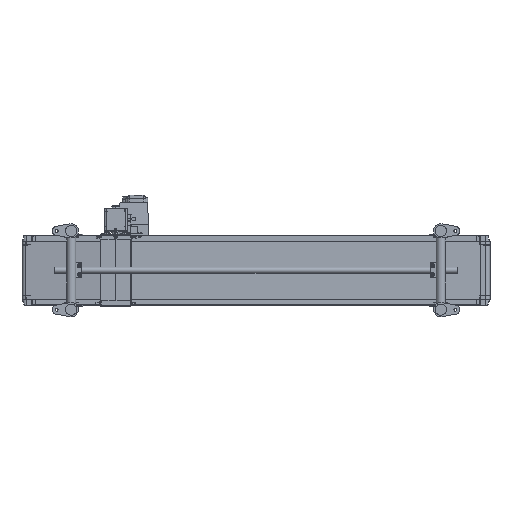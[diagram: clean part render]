
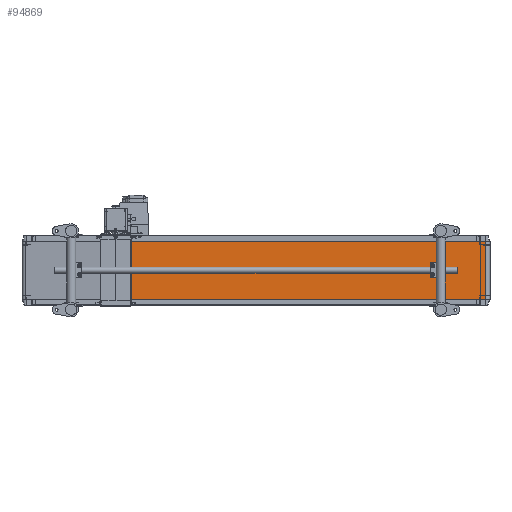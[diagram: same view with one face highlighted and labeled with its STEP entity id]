
A CAD part, front view. The second image highlights one B-rep face of the part: STEP entity #94869.
In plain terms, the highlighted planar face has unit normal (0.023, -1, 0).
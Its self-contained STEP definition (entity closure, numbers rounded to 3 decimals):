
#2929 = EDGE_CURVE ( 'NONE', #91122, #62251, #56073, .T. ) ;
#7864 = DIRECTION ( 'NONE',  ( 0., 0., 1. ) ) ;
#11126 = VECTOR ( 'NONE', #64337, 1000. ) ;
#14292 = CARTESIAN_POINT ( 'NONE',  ( 1982.907, -34.195, 125. ) ) ;
#15406 = EDGE_CURVE ( 'NONE', #91122, #33384, #88039, .T. ) ;
#15532 = CARTESIAN_POINT ( 'NONE',  ( 434.607, -70.005, -125. ) ) ;
#17185 = VERTEX_POINT ( 'NONE', #87404 ) ;
#17563 = CARTESIAN_POINT ( 'NONE',  ( 1982.907, -34.195, -125. ) ) ;
#20964 = CARTESIAN_POINT ( 'NONE',  ( 1982.907, -34.195, 125. ) ) ;
#21465 = CARTESIAN_POINT ( 'NONE',  ( 1982.907, -34.195, -125. ) ) ;
#24657 = VECTOR ( 'NONE', #29315, 1000. ) ;
#28135 = ORIENTED_EDGE ( 'NONE', *, *, #15406, .F. ) ;
#28606 = LINE ( 'NONE', #15532, #98586 ) ;
#29315 = DIRECTION ( 'NONE',  ( -1., -0.023, 0. ) ) ;
#31449 = CARTESIAN_POINT ( 'NONE',  ( 1982.907, -34.195, -125. ) ) ;
#33384 = VERTEX_POINT ( 'NONE', #51734 ) ;
#41693 = EDGE_CURVE ( 'NONE', #62251, #17185, #65913, .T. ) ;
#43379 = AXIS2_PLACEMENT_3D ( 'NONE', #101629, #62829, #95692 ) ;
#47288 = EDGE_CURVE ( 'NONE', #33384, #17185, #28606, .T. ) ;
#51734 = CARTESIAN_POINT ( 'NONE',  ( 434.607, -70.005, -125. ) ) ;
#56073 = LINE ( 'NONE', #31449, #11126 ) ;
#56746 = ORIENTED_EDGE ( 'NONE', *, *, #2929, .T. ) ;
#62251 = VERTEX_POINT ( 'NONE', #14292 ) ;
#62829 = DIRECTION ( 'NONE',  ( -0.023, 1., 0. ) ) ;
#64337 = DIRECTION ( 'NONE',  ( 0., 0., 1. ) ) ;
#65913 = LINE ( 'NONE', #20964, #24657 ) ;
#77595 = PLANE ( 'NONE',  #43379 ) ;
#79034 = ORIENTED_EDGE ( 'NONE', *, *, #41693, .T. ) ;
#79426 = ORIENTED_EDGE ( 'NONE', *, *, #47288, .F. ) ;
#79693 = FACE_OUTER_BOUND ( 'NONE', #82940, .T. ) ;
#80855 = DIRECTION ( 'NONE',  ( -1., -0.023, 0. ) ) ;
#82940 = EDGE_LOOP ( 'NONE', ( #79034, #79426, #28135, #56746 ) ) ;
#87404 = CARTESIAN_POINT ( 'NONE',  ( 434.607, -70.005, 125. ) ) ;
#88039 = LINE ( 'NONE', #17563, #89248 ) ;
#89248 = VECTOR ( 'NONE', #80855, 1000. ) ;
#91122 = VERTEX_POINT ( 'NONE', #21465 ) ;
#94869 = ADVANCED_FACE ( 'NONE', ( #79693 ), #77595, .F. ) ;
#95692 = DIRECTION ( 'NONE',  ( 1., 0.023, 0. ) ) ;
#98586 = VECTOR ( 'NONE', #7864, 1000. ) ;
#101629 = CARTESIAN_POINT ( 'NONE',  ( 1982.907, -34.195, -125. ) ) ;
